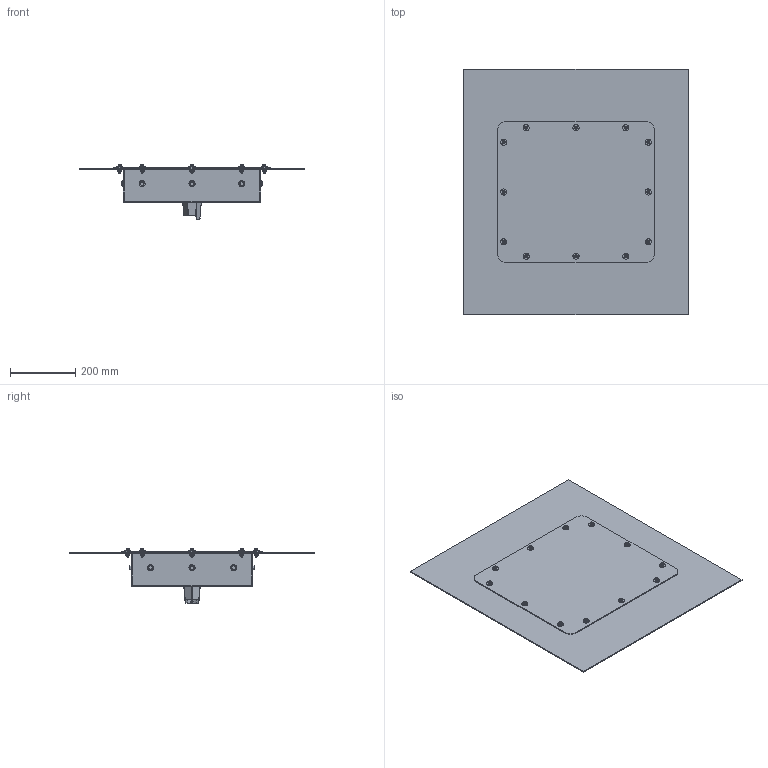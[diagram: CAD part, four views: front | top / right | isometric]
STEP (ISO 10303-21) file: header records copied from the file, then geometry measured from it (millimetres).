
FILE_DESCRIPTION (( 'STEP AP214' ), '1' );
FILE_NAME ('HALD-24-1X150LED-V3.STEP', '2017-10-31T18:02:27', ( '' ), ( '' ), 'SwSTEP 2.0', 'SolidWorks 2016', '' );
FILE_SCHEMA (( 'AUTOMOTIVE_DESIGN' ));
Length unit declared in the file: inch
Products named in the file (9): socket head cap screw_ai_HX-SHCS 0.25-20x0.75x0.75-N; hex nut_ai_HNUT 0.2500-20-D-N; flat washer type b regular_ai_Regular FW 0.25; HALD-24 Cover; front plate rev bver2_V3; EPL-LED-150W-RT PART LIght headver2; main housingver2; HALD-24-1X150LED-V3; hex bolt_ai_HBOLT 0.2500-20x1x0.75-N
Assembly tree (76 placements, depth 2):
  HALD-24-1X150LED-V3
    main housingver2
    EPL-LED-150W-RT PART LIght headver2
    front plate rev bver2_V3
    HALD-24 Cover
    flat washer type b regular_ai_Regular FW 0.25  x36
    hex nut_ai_HNUT 0.2500-20-D-N  x12
    socket head cap screw_ai_HX-SHCS 0.25-20x0.75x0.75-N  x12
    hex bolt_ai_HBOLT 0.2500-20x1x0.75-N  x12
Bounding box: 685.8 x 749.3 x 166.32 mm (x, y, z)
Volume: 2799733.6 mm3; surface area: 2572654.2 mm2
Topology: 75 solids, 83 shells, 3380 faces, 8951 edges, 5549 vertices
Faces by surface type: plane 1381, cylinder 1213, bspline 394, cone 368, torus 24
Entity records: 89957 total; most frequent: CARTESIAN_POINT 29245, ORIENTED_EDGE 12686, DIRECTION 11787, EDGE_CURVE 6785, VERTEX_POINT 4268, VECTOR 3989, LINE 3989, AXIS2_PLACEMENT_3D 3899
